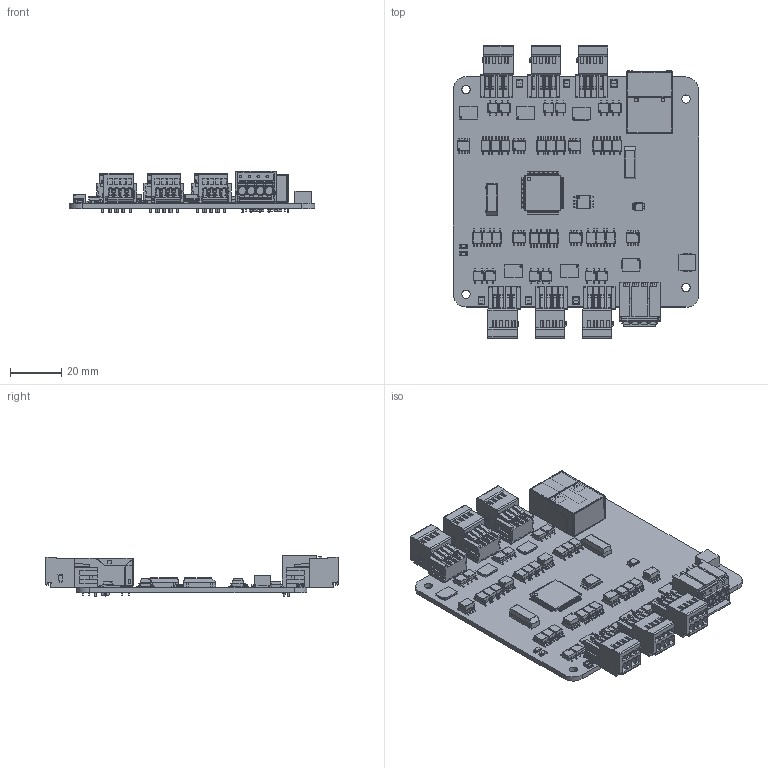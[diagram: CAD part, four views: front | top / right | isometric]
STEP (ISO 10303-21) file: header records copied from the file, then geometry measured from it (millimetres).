
FILE_DESCRIPTION(/* description */ ('PCB 6CH Serial Server'),/* implementation_level */ '2;1');
FILE_NAME(/* name */ '121701.step',/* time_stamp */ '2026-03-23T10:59:49+01:00',/* author */ (''),/* organization */ (''),/* preprocessor_version */ 'ST-DEVELOPER v20.1',/* originating_system */ 'Autodesk Translation Framework v14.24.0.0',/* authorisation */ '');
FILE_SCHEMA (('AUTOMOTIVE_DESIGN { 1 0 10303 214 3 1 1 }'));
Products named in the file (3): 121701; 100086; 112073
Assembly tree (7 placements, depth 2):
  121701
    100086  x6
    112073
Bounding box: 96 x 114.4 x 16.06 mm (x, y, z)
Volume: 37704.3 mm3; surface area: 43758.3 mm2
Topology: 8 solids, 8 shells, 10410 faces, 29320 edges, 18604 vertices
Faces by surface type: plane 7501, cylinder 2657, sphere 172, cone 68, bspline 8, torus 4
Full cylindrical faces by diameter (mm): 0.375 x1, 0.476 x12, 0.489 x6, 0.625 x6, 0.66 x1, 0.889 x1, 1 x12, 1.2 x42, 1.4 x1, 3.2 x6
Entity records: 300762 total; most frequent: CARTESIAN_POINT 52908, ORIENTED_EDGE 52842, DIRECTION 49745, EDGE_CURVE 26421, LINE 21735, VECTOR 21735, VERTEX_POINT 16814, AXIS2_PLACEMENT_3D 14005
